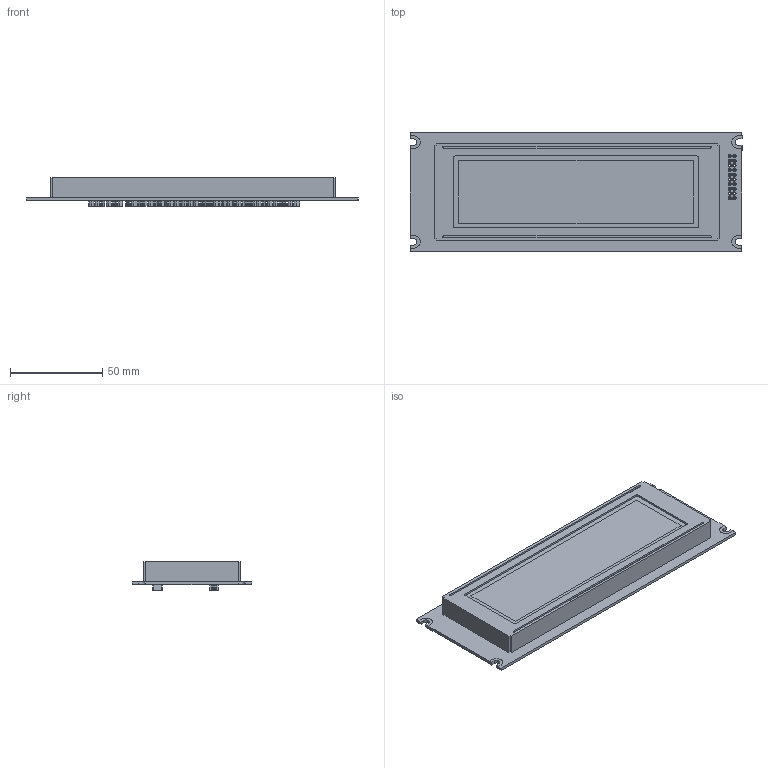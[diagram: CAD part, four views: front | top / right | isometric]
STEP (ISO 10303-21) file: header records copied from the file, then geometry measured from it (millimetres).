
FILE_DESCRIPTION (( 'STEP AP214' ), '1' );
FILE_NAME ('CFAG24064AYYHTZ.STEP', '2024-10-10T18:54:58', ( '' ), ( '' ), 'SwSTEP 2.0', 'SolidWorks 2021', '' );
FILE_SCHEMA (( 'AUTOMOTIVE_DESIGN' ));
Length unit declared in the file: millimetre
Products named in the file (1): CFAG24064AYYHTZ
Bounding box: 180 x 65 x 15.6 mm (x, y, z)
Volume: 103043.9 mm3; surface area: 48629.5 mm2
Topology: 2 solids, 2 shells, 983 faces, 2575 edges, 1718 vertices
Faces by surface type: plane 514, bspline 321, cylinder 148
Entity records: 49322 total; most frequent: CARTESIAN_POINT 23854, ORIENTED_EDGE 5150, DIRECTION 3555, EDGE_CURVE 2575, VERTEX_POINT 1718, LINE 1637, VECTOR 1637, EDGE_LOOP 1145
